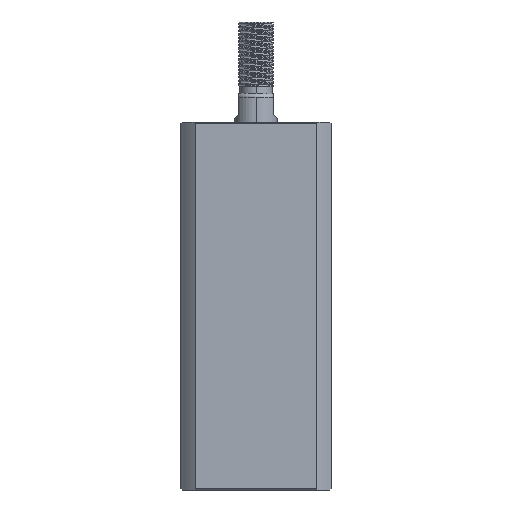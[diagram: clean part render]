
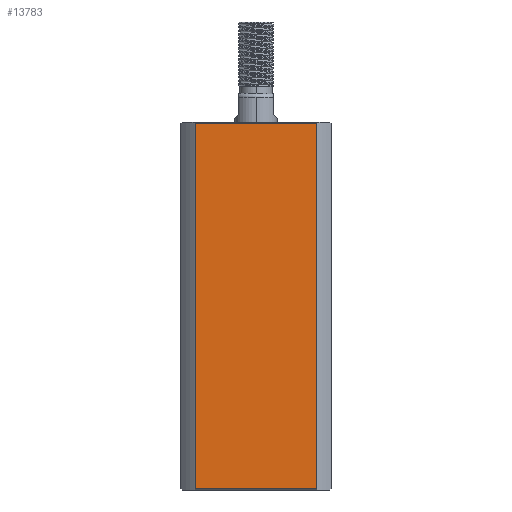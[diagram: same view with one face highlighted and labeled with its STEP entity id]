
A CAD part, left-side view. The second image highlights one B-rep face of the part: STEP entity #13783.
In plain terms, the highlighted planar face has unit normal (-1, 0, 0).
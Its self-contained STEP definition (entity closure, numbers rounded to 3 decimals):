
#404 = VERTEX_POINT ( 'NONE', #3396 ) ;
#425 = LINE ( 'NONE', #14970, #11705 ) ;
#462 = VECTOR ( 'NONE', #10472, 1000. ) ;
#614 = PLANE ( 'NONE',  #11649 ) ;
#624 = CARTESIAN_POINT ( 'NONE',  ( -21., -16.971, -197. ) ) ;
#677 = EDGE_CURVE ( 'NONE', #404, #2393, #425, .T. ) ;
#1064 = ORIENTED_EDGE ( 'NONE', *, *, #3994, .F. ) ;
#1408 = CARTESIAN_POINT ( 'NONE',  ( -21., -16.971, 0.3 ) ) ;
#1730 = VERTEX_POINT ( 'NONE', #2752 ) ;
#1796 = DIRECTION ( 'NONE',  ( 0., 0., -1. ) ) ;
#1897 = ORIENTED_EDGE ( 'NONE', *, *, #677, .T. ) ;
#1997 = CARTESIAN_POINT ( 'NONE',  ( -21., 21., 102.7 ) ) ;
#2337 = CARTESIAN_POINT ( 'NONE',  ( -21., 16.971, -197. ) ) ;
#2393 = VERTEX_POINT ( 'NONE', #1408 ) ;
#2752 = CARTESIAN_POINT ( 'NONE',  ( -21., -16.971, 102.7 ) ) ;
#3182 = DIRECTION ( 'NONE',  ( 0., 1., 0. ) ) ;
#3208 = LINE ( 'NONE', #2337, #462 ) ;
#3396 = CARTESIAN_POINT ( 'NONE',  ( -21., 16.971, 0.3 ) ) ;
#3994 = EDGE_CURVE ( 'NONE', #404, #4828, #3208, .T. ) ;
#4599 = ORIENTED_EDGE ( 'NONE', *, *, #6062, .T. ) ;
#4828 = VERTEX_POINT ( 'NONE', #12328 ) ;
#5301 = DIRECTION ( 'NONE',  ( 0., 1., 0. ) ) ;
#5330 = FACE_OUTER_BOUND ( 'NONE', #9756, .T. ) ;
#6062 = EDGE_CURVE ( 'NONE', #1730, #4828, #6407, .T. ) ;
#6094 = ORIENTED_EDGE ( 'NONE', *, *, #11301, .F. ) ;
#6407 = LINE ( 'NONE', #1997, #12200 ) ;
#7872 = VECTOR ( 'NONE', #1796, 1000. ) ;
#9756 = EDGE_LOOP ( 'NONE', ( #1064, #1897, #6094, #4599 ) ) ;
#9939 = CARTESIAN_POINT ( 'NONE',  ( -21., 21., 103. ) ) ;
#10472 = DIRECTION ( 'NONE',  ( 0., 0., 1. ) ) ;
#10952 = LINE ( 'NONE', #624, #7872 ) ;
#11301 = EDGE_CURVE ( 'NONE', #1730, #2393, #10952, .T. ) ;
#11649 = AXIS2_PLACEMENT_3D ( 'NONE', #9939, #12253, #5301 ) ;
#11705 = VECTOR ( 'NONE', #14875, 1000. ) ;
#12200 = VECTOR ( 'NONE', #3182, 1000. ) ;
#12253 = DIRECTION ( 'NONE',  ( 1., 0., 0. ) ) ;
#12328 = CARTESIAN_POINT ( 'NONE',  ( -21., 16.971, 102.7 ) ) ;
#13783 = ADVANCED_FACE ( 'NONE', ( #5330 ), #614, .F. ) ;
#14875 = DIRECTION ( 'NONE',  ( 0., -1., 0. ) ) ;
#14970 = CARTESIAN_POINT ( 'NONE',  ( -21., 21., 0.3 ) ) ;
